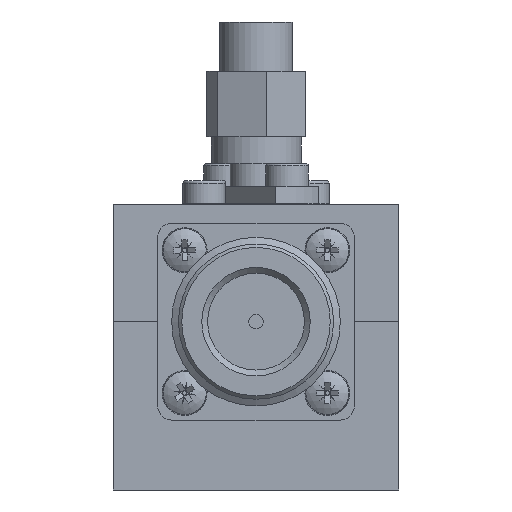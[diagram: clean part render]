
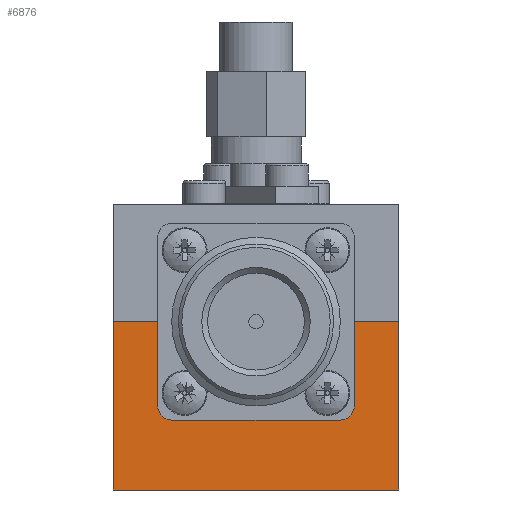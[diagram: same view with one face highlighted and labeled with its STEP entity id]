
A CAD part, left-side view. The second image highlights one B-rep face of the part: STEP entity #6876.
In plain terms, the highlighted planar face has unit normal (-1, 0, 0).
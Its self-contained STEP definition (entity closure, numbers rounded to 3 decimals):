
#423=LINE('',#9628,#681);
#427=LINE('',#9642,#685);
#430=LINE('',#9668,#688);
#431=LINE('',#9675,#689);
#432=LINE('',#9677,#690);
#681=VECTOR('',#7980,1000.);
#685=VECTOR('',#7992,1000.);
#688=VECTOR('',#8021,1000.);
#689=VECTOR('',#8030,1000.);
#690=VECTOR('',#8031,1000.);
#968=ORIENTED_EDGE('',*,*,#2152,.T.);
#969=ORIENTED_EDGE('',*,*,#2153,.T.);
#970=ORIENTED_EDGE('',*,*,#2140,.F.);
#971=ORIENTED_EDGE('',*,*,#2154,.T.);
#972=ORIENTED_EDGE('',*,*,#2133,.F.);
#973=ORIENTED_EDGE('',*,*,#2151,.F.);
#974=ORIENTED_EDGE('',*,*,#2155,.T.);
#975=ORIENTED_EDGE('',*,*,#2156,.T.);
#2133=EDGE_CURVE('',#2727,#2728,#423,.T.);
#2140=EDGE_CURVE('',#2732,#2733,#427,.T.);
#2151=EDGE_CURVE('',#2742,#2727,#430,.T.);
#2152=EDGE_CURVE('',#2743,#2743,#3228,.T.);
#2153=EDGE_CURVE('',#2744,#2744,#3229,.T.);
#2154=EDGE_CURVE('',#2732,#2728,#3230,.T.);
#2155=EDGE_CURVE('',#2742,#2745,#431,.T.);
#2156=EDGE_CURVE('',#2745,#2733,#432,.T.);
#2727=VERTEX_POINT('',#9629);
#2728=VERTEX_POINT('',#9630);
#2732=VERTEX_POINT('',#9641);
#2733=VERTEX_POINT('',#9643);
#2742=VERTEX_POINT('',#9667);
#2743=VERTEX_POINT('',#9671);
#2744=VERTEX_POINT('',#9673);
#2745=VERTEX_POINT('',#9676);
#3228=CIRCLE('',#7290,0.784);
#3229=CIRCLE('',#7291,0.784);
#3230=CIRCLE('',#7292,3.35);
#3543=EDGE_LOOP('',(#968));
#3544=EDGE_LOOP('',(#969));
#3545=EDGE_LOOP('',(#970,#971,#972,#973,#974,#975));
#4139=FACE_BOUND('',#3543,.T.);
#4140=FACE_BOUND('',#3544,.T.);
#4141=FACE_BOUND('',#3545,.T.);
#4746=PLANE('',#7289);
#6876=ADVANCED_FACE('',(#4139,#4140,#4141),#4746,.T.);
#7289=AXIS2_PLACEMENT_3D('',#9669,#8022,#8023);
#7290=AXIS2_PLACEMENT_3D('',#9670,#8024,#8025);
#7291=AXIS2_PLACEMENT_3D('',#9672,#8026,#8027);
#7292=AXIS2_PLACEMENT_3D('',#9674,#8028,#8029);
#7980=DIRECTION('',(0.,-1.,0.));
#7992=DIRECTION('',(0.,-1.,0.));
#8021=DIRECTION('',(0.,0.,1.));
#8022=DIRECTION('',(-1.,0.,0.));
#8023=DIRECTION('',(0.,-1.,0.));
#8024=DIRECTION('',(1.,0.,0.));
#8025=DIRECTION('',(0.,-1.,0.));
#8026=DIRECTION('',(1.,0.,0.));
#8027=DIRECTION('',(0.,-1.,0.));
#8028=DIRECTION('',(1.,0.,0.));
#8029=DIRECTION('',(0.,-1.,0.));
#8030=DIRECTION('',(0.,-1.,0.));
#8031=DIRECTION('',(0.,0.,1.));
#9628=CARTESIAN_POINT('',(-20.,12.7,0.));
#9629=CARTESIAN_POINT('',(-20.,12.7,0.));
#9630=CARTESIAN_POINT('',(-20.,3.35,0.));
#9641=CARTESIAN_POINT('',(-20.,-3.35,0.));
#9642=CARTESIAN_POINT('',(-20.,12.7,0.));
#9643=CARTESIAN_POINT('',(-20.,-12.7,0.));
#9667=CARTESIAN_POINT('',(-20.,12.7,-14.975));
#9668=CARTESIAN_POINT('',(-20.,12.7,-15.475));
#9669=CARTESIAN_POINT('',(-20.,12.7,-15.475));
#9670=CARTESIAN_POINT('',(-20.,-6.35,-6.35));
#9671=CARTESIAN_POINT('',(-20.,-7.134,-6.35));
#9672=CARTESIAN_POINT('',(-20.,6.35,-6.35));
#9673=CARTESIAN_POINT('',(-20.,5.566,-6.35));
#9674=CARTESIAN_POINT('',(-20.,0.,0.));
#9675=CARTESIAN_POINT('',(-20.,12.7,-14.975));
#9676=CARTESIAN_POINT('',(-20.,-12.7,-14.975));
#9677=CARTESIAN_POINT('',(-20.,-12.7,-15.475));
